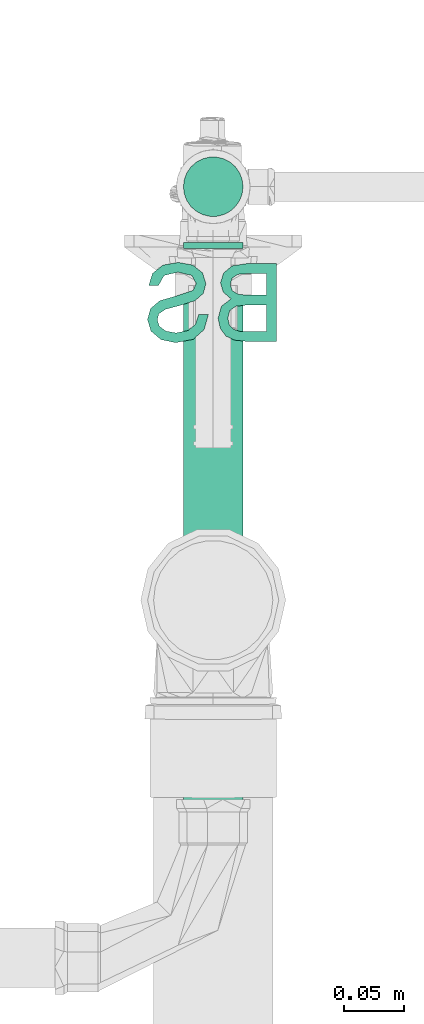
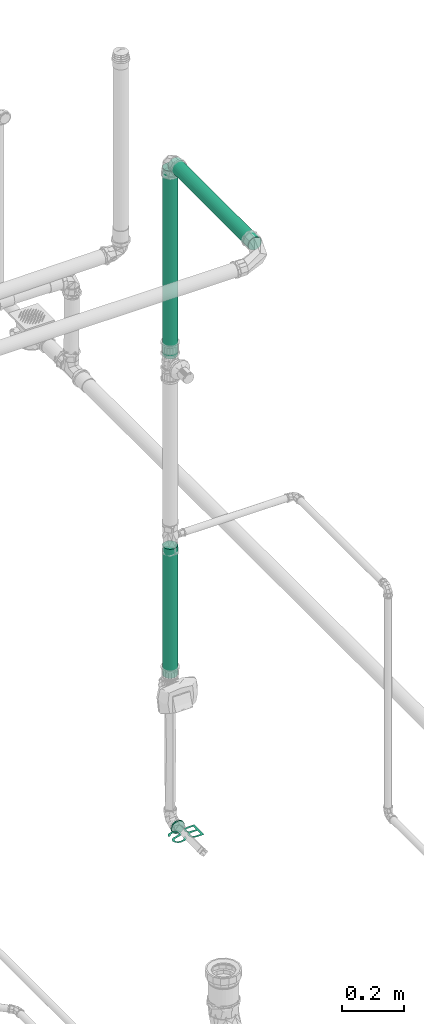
# One storey, part 157 of 589: 3 flow segments, 1 flow terminal.
"""IFC2X3 building model written with IfcOpenShell, lengths in millimetres."""

from ifc_helpers import new_model, entity, si_unit, converted_unit, derived_unit, direction, frame, frame_2d, origin, place, context, subcontext, project, spatial, circle, extrude, face_set, surface_model, source, transform, mapped, material, type_object, type_shapes, element, save


model = new_model("IFC2X3")

# Units and contexts
model_context = context("Model", 3, precision=0.01, world=origin(), true_north=direction((6.123031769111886e-17, 1.0)))
body_context = subcontext(model_context, "Body", "Model", "MODEL_VIEW")
ifc_project = project(units=[si_unit("LENGTHUNIT", "METRE", prefix="MILLI"), si_unit("AREAUNIT", "SQUARE_METRE"), si_unit("VOLUMEUNIT", "CUBIC_METRE"), converted_unit("PLANEANGLEUNIT", "DEGREE", entity("IfcRatioMeasure", 0.017453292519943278), si_unit("PLANEANGLEUNIT", "RADIAN"), dimensions=[0, 0, 0, 0, 0, 0, 0]), si_unit("MASSUNIT", "GRAM", prefix="KILO"), derived_unit("MASSDENSITYUNIT", [(si_unit("MASSUNIT", "GRAM", prefix="KILO"), 1), (si_unit("LENGTHUNIT", "METRE"), -3)]), derived_unit("IONCONCENTRATIONUNIT", [(si_unit("MASSUNIT", "GRAM", prefix="KILO"), 1), (si_unit("LENGTHUNIT", "METRE"), -3)]), derived_unit("MOMENTOFINERTIAUNIT", [(si_unit("LENGTHUNIT", "METRE"), 4)]), si_unit("TIMEUNIT", "SECOND"), si_unit("FREQUENCYUNIT", "HERTZ"), si_unit("THERMODYNAMICTEMPERATUREUNIT", "DEGREE_CELSIUS"), derived_unit("THERMALTRANSMITTANCEUNIT", [(si_unit("MASSUNIT", "GRAM", prefix="KILO"), 1), (si_unit("THERMODYNAMICTEMPERATUREUNIT", "KELVIN"), -1), (si_unit("TIMEUNIT", "SECOND"), -3)]), derived_unit("THERMALCONDUCTANCEUNIT", [(si_unit("MASSUNIT", "GRAM", prefix="KILO"), 1), (si_unit("THERMODYNAMICTEMPERATUREUNIT", "KELVIN"), -1), (si_unit("TIMEUNIT", "SECOND"), -3), (si_unit("LENGTHUNIT", "METRE"), 1)]), derived_unit("VOLUMETRICFLOWRATEUNIT", [(si_unit("LENGTHUNIT", "METRE"), 3), (si_unit("TIMEUNIT", "SECOND"), -1)]), derived_unit("MASSFLOWRATEUNIT", [(si_unit("MASSUNIT", "GRAM", prefix="KILO"), 1), (si_unit("TIMEUNIT", "SECOND"), -1)]), derived_unit("ROTATIONALFREQUENCYUNIT", [(si_unit("TIMEUNIT", "SECOND"), -1)]), si_unit("ELECTRICCURRENTUNIT", "AMPERE"), si_unit("ELECTRICVOLTAGEUNIT", "VOLT"), si_unit("POWERUNIT", "WATT"), si_unit("FORCEUNIT", "NEWTON", prefix="KILO"), si_unit("ILLUMINANCEUNIT", "LUX"), si_unit("LUMINOUSFLUXUNIT", "LUMEN"), si_unit("LUMINOUSINTENSITYUNIT", "CANDELA"), derived_unit("USERDEFINED", [(si_unit("MASSUNIT", "GRAM", prefix="KILO"), -1), (si_unit("LENGTHUNIT", "METRE"), -2), (si_unit("TIMEUNIT", "SECOND"), 3), (si_unit("LUMINOUSFLUXUNIT", "LUMEN"), 1)]), derived_unit("USERDEFINED", [(si_unit("MASSUNIT", "GRAM", prefix="KILO"), 1), (si_unit("TIMEUNIT", "SECOND"), -3), (si_unit("LENGTHUNIT", "METRE"), 3), (si_unit("ELECTRICCURRENTUNIT", "AMPERE"), -2)]), derived_unit("SOUNDPOWERUNIT", [(si_unit("MASSUNIT", "GRAM", prefix="KILO"), 1), (si_unit("TIMEUNIT", "SECOND"), -3), (si_unit("LENGTHUNIT", "METRE"), 2)]), derived_unit("SOUNDPRESSUREUNIT", [(si_unit("MASSUNIT", "GRAM", prefix="KILO"), 1), (si_unit("LENGTHUNIT", "METRE"), -1), (si_unit("TIMEUNIT", "SECOND"), -2)]), derived_unit("LINEARVELOCITYUNIT", [(si_unit("LENGTHUNIT", "METRE"), 1), (si_unit("TIMEUNIT", "SECOND"), -1)]), si_unit("PRESSUREUNIT", "PASCAL"), derived_unit("USERDEFINED", [(si_unit("MASSUNIT", "GRAM", prefix="KILO"), 1), (si_unit("LENGTHUNIT", "METRE"), -2), (si_unit("TIMEUNIT", "SECOND"), -2)]), derived_unit("LINEARFORCEUNIT", [(si_unit("MASSUNIT", "GRAM", prefix="KILO"), 1), (si_unit("TIMEUNIT", "SECOND"), -2)]), derived_unit("PLANARFORCEUNIT", [(si_unit("MASSUNIT", "GRAM", prefix="KILO"), 1), (si_unit("LENGTHUNIT", "METRE"), -1), (si_unit("TIMEUNIT", "SECOND"), -2)]), derived_unit("SPECIFICHEATCAPACITYUNIT", [(si_unit("THERMODYNAMICTEMPERATUREUNIT", "KELVIN"), -1), (si_unit("LENGTHUNIT", "METRE"), 2), (si_unit("TIMEUNIT", "SECOND"), -2)]), derived_unit("HEATINGVALUEUNIT", [(si_unit("LENGTHUNIT", "METRE"), 2), (si_unit("TIMEUNIT", "SECOND"), -2)]), derived_unit("VAPORPERMEABILITYUNIT", [(si_unit("LENGTHUNIT", "METRE"), -1), (si_unit("TIMEUNIT", "SECOND"), 1)]), derived_unit("DYNAMICVISCOSITYUNIT", [(si_unit("MASSUNIT", "GRAM", prefix="KILO"), 1), (si_unit("TIMEUNIT", "SECOND"), -1), (si_unit("LENGTHUNIT", "METRE"), -1)]), derived_unit("THERMALEXPANSIONCOEFFICIENTUNIT", [(si_unit("THERMODYNAMICTEMPERATUREUNIT", "KELVIN"), -1)]), derived_unit("MODULUSOFELASTICITYUNIT", [(si_unit("MASSUNIT", "GRAM", prefix="KILO"), 1), (si_unit("LENGTHUNIT", "METRE"), -1), (si_unit("TIMEUNIT", "SECOND"), -2)]), derived_unit("ISOTHERMALMOISTURECAPACITYUNIT", [(si_unit("LENGTHUNIT", "METRE"), 3), (si_unit("MASSUNIT", "GRAM", prefix="KILO"), -1)]), derived_unit("MOISTUREDIFFUSIVITYUNIT", [(si_unit("TIMEUNIT", "SECOND"), -1), (si_unit("LENGTHUNIT", "METRE"), 2)])], contexts=[model_context])

# Site, building, storey
site_placement = place(None, origin())
site = spatial("IfcSite", under=ifc_project, at=site_placement, Name="Default", CompositionType="ELEMENT")
building_placement = place(site_placement, origin())
building = spatial("IfcBuilding", under=site, at=building_placement, CompositionType="ELEMENT")
storey_placement = place(building_placement, frame((0.0, 0.0, 100.0)))
storey = spatial("IfcBuildingStorey", under=building, at=storey_placement, Name="TÉRREO", CompositionType="ELEMENT", Elevation=100.0)

# Flow segments
pipe_segment_type = type_object("IfcPipeSegmentType", Name="Tipos de tubos:PVC Marrom Soldável", PredefinedType="NOTDEFINED")
flow_segment_1_placement = place(storey_placement, origin())
element("IfcFlowSegment", 1, at=flow_segment_1_placement, inside=storey, type_object=pipe_segment_type, Name="Tipos de tubos:PVC Marrom Soldável", ObjectType="Tipos de tubos:PVC Marrom Soldável", context=body_context, shape_type="SweptSolid", body=[
    extrude(circle(Radius=25.0, at=frame_2d((-1.0828671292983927e-12, 0.0), x_axis=(1.0, 0.0))), frame((8798.142188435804, -7965.828664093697, 955.7041463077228), z_axis=(0.0, 0.0, 1.0), x_axis=(-1.0, 0.0, 0.0)), (0.0, 0.0, 1.0), 511.6958244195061),
])
flow_segment_2_placement = place(storey_placement, origin())
element("IfcFlowSegment", 2, at=flow_segment_2_placement, inside=storey, type_object=pipe_segment_type, Name="Tipos de tubos:PVC Marrom Soldável", ObjectType="Tipos de tubos:PVC Marrom Soldável", context=body_context, shape_type="SweptSolid", body=[
    extrude(circle(Radius=25.0, at=frame_2d((0.0, 1.0828671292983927e-12), x_axis=(1.0, 0.0))), frame((8798.142188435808, -7965.828664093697, 2221.5), z_axis=(0.0, 0.0, 1.0), x_axis=(-1.0, 0.0, 0.0)), (0.0, 0.0, 1.0), 744.4000000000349),
])
flow_segment_3_placement = place(storey_placement, origin())
element("IfcFlowSegment", 3, at=flow_segment_3_placement, inside=storey, type_object=pipe_segment_type, Name="Tipos de tubos:PVC Marrom Soldável", ObjectType="Tipos de tubos:PVC Marrom Soldável", context=body_context, shape_type="SweptSolid", body=[
    extrude(circle(Radius=25.0, at=frame_2d((-3.2486013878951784e-12, 0.0), x_axis=(1.0, 0.0))), frame((8798.142188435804, -8516.091283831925, 2995.0), z_axis=(0.0, 1.0, 0.0), x_axis=(-1.0, 0.0, 0.0)), (0.0, 0.0, 1.0), 521.1626197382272),
])

# Flow terminal
ifc_material = material(Name="<Unnamed>")
distribution_element_type = type_object("IfcDistributionElementType", Name="Hidráulica_Ponto de Utilização_Uso Provável_Rodrigo MEP:Bacia Sanitária com Valvula de Descarga BS (Peso 32)", material=ifc_material)
shared_shape = source(origin(), body_context, "Body", "SurfaceModel", [
    surface_model("IfcFaceBasedSurfaceModel", [(0.0, 83.06704158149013, 26.59527223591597), (0.0, 17.77043998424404, 26.59527223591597), (24.916647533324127, 17.77043998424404, 26.59527223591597), (37.119906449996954, 19.691397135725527, 26.59527223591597), (44.32548846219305, 25.597742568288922, 26.59527223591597), (46.93193239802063, 33.951116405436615, 26.59527223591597), (44.73996884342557, 41.5791495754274, 26.59527223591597), (38.116253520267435, 47.35796258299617, 26.59527223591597), (46.158767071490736, 53.44763587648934, 26.59527223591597), (48.97245119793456, 63.60240521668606, 26.59527223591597), (47.05149404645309, 72.37823021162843, 26.59527223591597), (42.29294043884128, 78.62731903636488, 26.59527223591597), (35.19097852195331, 81.94316208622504, 26.59527223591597), (24.7253488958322, 83.06704158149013, 26.59527223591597), (8.162075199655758, 74.90496638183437, 26.59527223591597), (24.900705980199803, 74.90496638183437, 26.59527223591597), (30.958496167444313, 74.58613531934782, 26.59527223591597), (36.08370549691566, 72.80865214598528, 26.59527223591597), (39.47925631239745, 69.18194881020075, 26.59527223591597), (40.81037599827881, 63.68211298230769, 26.59527223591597), (39.24810379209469, 57.33737483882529, 26.59527223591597), (34.18666067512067, 53.55125597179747, 26.59527223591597), (24.103628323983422, 52.45925958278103, 26.59527223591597), (8.162075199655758, 52.45925958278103, 26.59527223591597), (8.162075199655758, 44.29718438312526, 26.59527223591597), (23.06742737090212, 44.29718438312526, 26.59527223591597), (31.77151537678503, 43.59575604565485, 26.59527223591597), (37.008315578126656, 40.57483172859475, 26.59527223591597), (38.76985719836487, 35.25832376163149, 26.59527223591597), (37.12787722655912, 29.933845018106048, 26.59527223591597), (32.42511905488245, 26.785388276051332, 26.59527223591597), (21.93557709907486, 25.9325151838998, 26.59527223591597), (8.162075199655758, 25.9325151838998, 26.59527223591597), (57.13452639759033, 60.62133478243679, 26.59527223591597), (65.2966015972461, 60.62133478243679, 26.59527223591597), (67.92695786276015, 68.79138075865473, 26.59527223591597), (74.35140377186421, 73.95644397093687, 26.59527223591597), (84.13951739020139, 75.92522578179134, 26.59527223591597), (92.66824831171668, 74.43469056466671, 26.59527223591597), (98.17605491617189, 70.3377114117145, 26.59527223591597), (99.98542119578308, 64.86178791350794, 26.59527223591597), (98.63038918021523, 59.76846169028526, 26.59527223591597), (93.0827286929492, 56.062050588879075, 26.59527223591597), (81.19830083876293, 52.94547695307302, 26.59527223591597), (68.40520445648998, 48.92023478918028, 26.59527223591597), (61.462658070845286, 42.84650304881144, 26.59527223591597), (59.175045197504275, 34.73225250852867, 26.59527223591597), (62.004670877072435, 25.494122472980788, 26.59527223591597), (70.27036617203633, 18.974027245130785, 26.59527223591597), (82.37000499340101, 16.750180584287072, 26.59527223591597), (95.28266302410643, 19.077647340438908, 26.59527223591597), (103.89110171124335, 25.916573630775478, 26.59527223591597), (107.12723699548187, 36.1351091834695, 26.59527223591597), (98.9651617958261, 36.1351091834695, 26.59527223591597), (94.34211138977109, 27.74985224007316, 26.59527223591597), (82.68883605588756, 24.912255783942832, 26.59527223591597), (71.0036776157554, 27.717969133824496, 26.59527223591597), (67.33712039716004, 34.49312921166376, 26.59527223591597), (69.93559355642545, 40.15238057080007, 26.59527223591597), (83.26273196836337, 44.711664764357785, 26.59527223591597), (97.70577909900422, 48.80864391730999, 26.59527223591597), (105.60481867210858, 55.42438846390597, 26.59527223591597), (108.14749639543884, 64.65454772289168, 26.59527223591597), (105.22222139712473, 74.41874901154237, 26.59527223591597), (96.80508134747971, 81.54462325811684, 26.59527223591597), (84.45834845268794, 84.0873009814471, 26.59527223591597), (69.8797981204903, 81.34535384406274, 26.59527223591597), (60.65760963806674, 73.08762932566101, 26.59527223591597), (28.053488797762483, 5.0, 26.59527223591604), (28.9053431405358, 5.0, 33.065748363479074), (31.40285370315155, 5.0, 39.095272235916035), (35.375819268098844, 5.0, 44.27294176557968), (40.553488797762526, 5.0, 48.24590733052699), (46.58301267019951, 5.0, 50.74341789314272), (53.05348879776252, 5.0, 51.59527223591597), (59.52396492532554, 5.0, 50.74341789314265), (65.55348879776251, 5.0, 48.245907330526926), (70.73115832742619, 5.0, 44.27294176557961), (74.70412389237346, 5.0, 39.09527223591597), (77.20163445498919, 5.0, 33.065748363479), (78.0534887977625, 5.0, 26.59527223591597), (77.20163445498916, 5.0, 20.124796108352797), (74.70412389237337, 5.0, 14.095272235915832), (70.73115832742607, 5.0, 8.91760270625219), (65.55348879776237, 5.0, 4.944637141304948), (59.52396492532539, 5.0, 2.447126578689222), (53.05348879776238, 5.0, 1.5952722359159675), (46.58301267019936, 5.0, 2.4471265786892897), (40.5534887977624, 5.0, 4.94463714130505), (35.37581926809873, 5.0, 8.91760270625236), (31.402853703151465, 5.0, 14.095272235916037), (28.905343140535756, 5.0, 20.124796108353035), (28.053488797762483, 0.0, 26.59527223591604), (28.905343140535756, 0.0, 20.124796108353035), (31.402853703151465, 0.0, 14.095272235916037), (35.37581926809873, 0.0, 8.91760270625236), (40.5534887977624, 0.0, 4.94463714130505), (46.58301267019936, 0.0, 2.4471265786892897), (53.05348879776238, 0.0, 1.5952722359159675), (59.52396492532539, 0.0, 2.447126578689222), (65.55348879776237, 0.0, 4.944637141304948), (70.73115832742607, 0.0, 8.91760270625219), (74.70412389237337, 0.0, 14.095272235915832), (77.20163445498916, 0.0, 20.124796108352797), (78.0534887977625, 0.0, 26.595272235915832), (77.20163445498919, 0.0, 33.065748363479), (74.70412389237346, 0.0, 39.09527223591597), (70.73115832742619, 0.0, 44.27294176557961), (65.55348879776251, 0.0, 48.245907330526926), (59.52396492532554, 0.0, 50.74341789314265), (53.05348879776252, 0.0, 51.59527223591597), (46.58301267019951, 0.0, 50.74341789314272), (40.553488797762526, 0.0, 48.24590733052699), (35.375819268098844, 0.0, 44.27294176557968), (31.40285370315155, 0.0, 39.095272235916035), (28.9053431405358, 0.0, 33.065748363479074)], [face_set([[[0, 1, 2, 3, 4, 5, 6, 7, 8, 9, 10, 11, 12, 13], [14, 15, 16, 17, 18, 19, 20, 21, 22, 23], [24, 25, 26, 27, 28, 29, 30, 31, 32]], [[33, 34, 35, 36, 37, 38, 39, 40, 41, 42, 43, 44, 45, 46, 47, 48, 49, 50, 51, 52, 53, 54, 55, 56, 57, 58, 59, 60, 61, 62, 63, 64, 65, 66, 67]]]), face_set([[[68, 69, 70, 71, 72, 73, 74, 75, 76, 77, 78, 79, 80, 81, 82, 83, 84, 85, 86, 87, 88, 89, 90, 91]], [[92, 93, 94, 95, 96, 97, 98, 99, 100, 101, 102, 103, 104, 105, 106, 107, 108, 109, 110, 111, 112, 113, 114, 115]], [[91, 93, 92, 68]], [[90, 94, 93, 91]], [[88, 96, 95, 89]], [[89, 95, 94, 90]], [[87, 97, 96, 88]], [[97, 87, 86, 98]], [[85, 99, 98, 86]], [[84, 100, 99, 85]], [[82, 102, 101, 83]], [[83, 101, 100, 84]], [[81, 103, 102, 82]], [[103, 81, 80, 104]], [[79, 105, 104, 80]], [[78, 106, 105, 79]], [[76, 108, 107, 77]], [[77, 107, 106, 78]], [[75, 109, 108, 76]], [[109, 75, 74, 110]], [[73, 111, 110, 74]], [[72, 112, 111, 73]], [[70, 114, 113, 71]], [[71, 113, 112, 72]], [[69, 115, 114, 70]], [[115, 69, 68, 92]]])]),
])
type_shapes(distribution_element_type, [shared_shape])
flow_terminal_placement = place(storey_placement, frame((8851.195677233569, -8012.531283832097, 353.404727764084), z_axis=(0.0, 0.0, 1.0), x_axis=(-1.0, 0.0, 0.0)))
element("IfcFlowTerminal", 4, at=flow_terminal_placement, inside=storey, type_object=distribution_element_type, material=ifc_material, Name="Hidráulica_Ponto de Utilização_Uso Provável_Rodrigo MEP:Bacia Sanitária com Valvula de Descarga BS (Peso 32)", ObjectType="Hidráulica_Ponto de Utilização_Uso Provável_Rodrigo MEP:Bacia Sanitária com Valvula de Descarga BS (Peso 32)", context=body_context, shape_type="MappedRepresentation", body=[
    mapped(shared_shape, transform((0.0, 0.0, 0.0), scale=1.0)),
])

save(model, "model.ifc")
